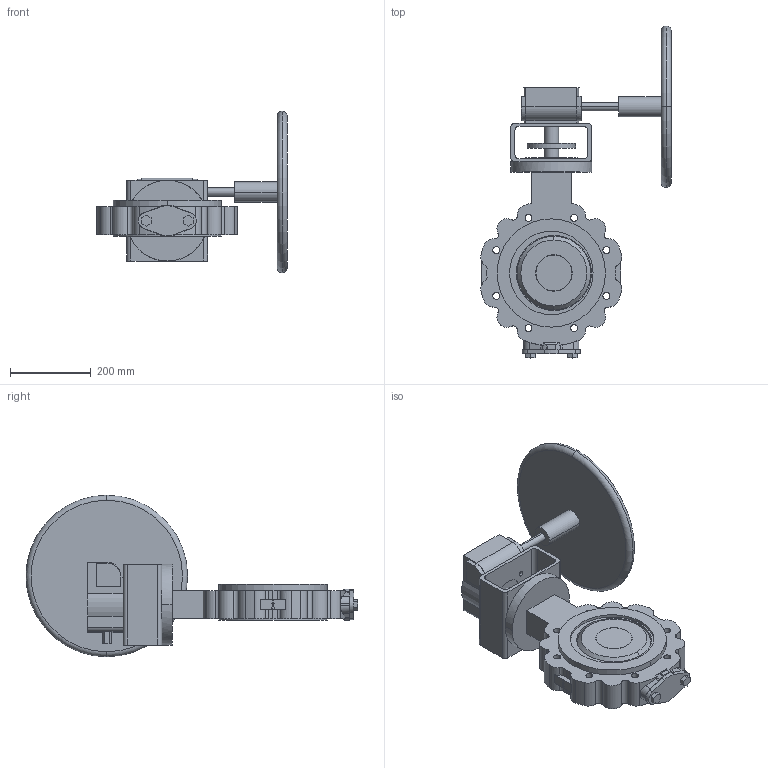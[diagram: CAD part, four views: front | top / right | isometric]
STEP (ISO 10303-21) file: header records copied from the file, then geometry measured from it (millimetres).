
FILE_DESCRIPTION( ( '' ), '1' );
FILE_NAME( 'F:/DE-SHS/TB/OR/04-Sonstiges/daten/Excel/mneugeba/018_ZETRIX-PN10_Getriebe-Rotork/c000006421.stp', '2016-09-19T06:20:07', ( '' ), ( '' ), ' ', ' ', ' ' );
FILE_SCHEMA( ( 'CONFIG_CONTROL_DESIGN' ) );
Length unit declared in the file: millimetre
Products named in the file (2): 1; 2
Bounding box: 471.69 x 821.9 x 400 mm (x, y, z)
Volume: 13852349.9 mm3; surface area: 1103687.9 mm2
Topology: 2 solids, 2 shells, 323 faces, 876 edges, 581 vertices
Faces by surface type: cylinder 173, plane 140, cone 4, torus 4, sphere 2
Entity records: 11225 total; most frequent: CARTESIAN_POINT 2582, DIRECTION 1889, ORIENTED_EDGE 1752, EDGE_CURVE 876, AXIS2_PLACEMENT_3D 720, VERTEX_POINT 581, LINE 449, VECTOR 449
